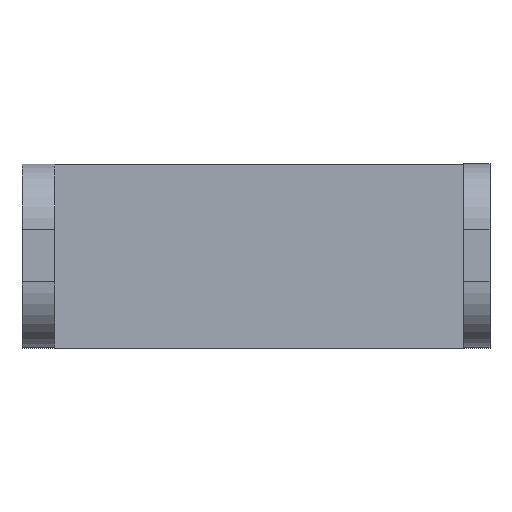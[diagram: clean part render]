
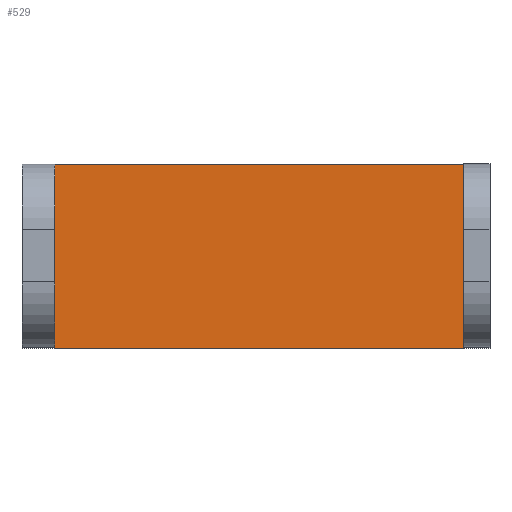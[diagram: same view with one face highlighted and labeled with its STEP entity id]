
A CAD part, top view. The second image highlights one B-rep face of the part: STEP entity #529.
In plain terms, the highlighted planar face has unit normal (0, 0, 1).
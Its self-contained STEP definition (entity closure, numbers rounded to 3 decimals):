
#42=PLANE('',#597);
#68=FACE_OUTER_BOUND('',#110,.T.);
#110=EDGE_LOOP('',(#484,#485,#486,#487));
#119=LINE('',#775,#163);
#129=LINE('',#805,#173);
#134=LINE('',#814,#178);
#155=LINE('',#897,#199);
#163=VECTOR('',#616,10.);
#173=VECTOR('',#642,10.);
#178=VECTOR('',#649,10.);
#199=VECTOR('',#748,10.);
#236=VERTEX_POINT('',#772);
#237=VERTEX_POINT('',#774);
#248=VERTEX_POINT('',#802);
#249=VERTEX_POINT('',#804);
#285=EDGE_CURVE('',#237,#236,#119,.T.);
#300=EDGE_CURVE('',#249,#248,#129,.T.);
#305=EDGE_CURVE('',#248,#237,#134,.T.);
#347=EDGE_CURVE('',#236,#249,#155,.T.);
#484=ORIENTED_EDGE('',*,*,#300,.T.);
#485=ORIENTED_EDGE('',*,*,#305,.T.);
#486=ORIENTED_EDGE('',*,*,#285,.T.);
#487=ORIENTED_EDGE('',*,*,#347,.T.);
#529=ADVANCED_FACE('',(#68),#42,.T.);
#597=AXIS2_PLACEMENT_3D('',#898,#749,#750);
#616=DIRECTION('',(1.,0.,0.));
#642=DIRECTION('',(-1.,0.,0.));
#649=DIRECTION('',(0.,-1.,0.));
#748=DIRECTION('',(0.,1.,0.));
#749=DIRECTION('center_axis',(0.,0.,1.));
#750=DIRECTION('ref_axis',(1.,0.,0.));
#772=CARTESIAN_POINT('',(15.85,-7.,2.));
#774=CARTESIAN_POINT('',(-15.35,-7.,2.));
#775=CARTESIAN_POINT('',(17.85,-7.,2.));
#802=CARTESIAN_POINT('',(-15.35,7.,2.));
#804=CARTESIAN_POINT('',(15.85,7.,2.));
#805=CARTESIAN_POINT('',(-17.85,7.,2.));
#814=CARTESIAN_POINT('',(-15.35,7.,2.));
#897=CARTESIAN_POINT('',(15.85,7.,2.));
#898=CARTESIAN_POINT('Origin',(0.25,0.,2.));
